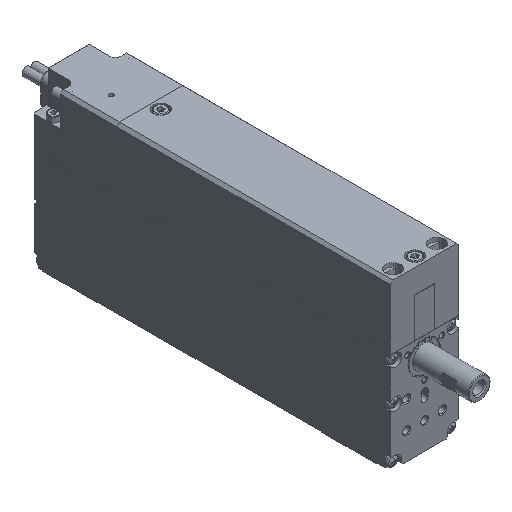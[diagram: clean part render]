
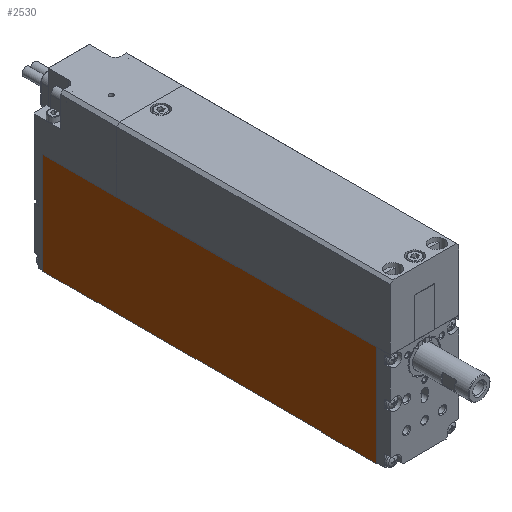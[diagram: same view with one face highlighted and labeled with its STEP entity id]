
A CAD part, isometric view. The second image highlights one B-rep face of the part: STEP entity #2530.
In plain terms, the highlighted planar face has unit normal (-1, 0, 0).
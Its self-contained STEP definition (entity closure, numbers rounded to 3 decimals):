
#1856=CARTESIAN_POINT('',(0.,36.8,0.0));
#1857=VERTEX_POINT('',#1856);
#1864=CARTESIAN_POINT('',(0.0,0.,0.0));
#1865=VERTEX_POINT('',#1864);
#1866=CARTESIAN_POINT('',(0.,36.8,0.0));
#1867=DIRECTION('',(0.0,-1.0,0.0));
#1868=VECTOR('',#1867,36.8);
#1869=LINE('',#1866,#1868);
#1870=EDGE_CURVE('',#1857,#1865,#1869,.T.);
#2178=CARTESIAN_POINT('',(0.,0.,-101.5));
#2179=VERTEX_POINT('',#2178);
#2186=CARTESIAN_POINT('',(0.0,0.,-121.5));
#2187=VERTEX_POINT('',#2186);
#2188=CARTESIAN_POINT('',(0.,0.,-101.5));
#2189=DIRECTION('',(0.0,0.0,-1.0));
#2190=VECTOR('',#2189,20.0);
#2191=LINE('',#2188,#2190);
#2192=EDGE_CURVE('',#2179,#2187,#2191,.T.);
#2440=CARTESIAN_POINT('',(0.,36.8,-121.5));
#2441=VERTEX_POINT('',#2440);
#2442=CARTESIAN_POINT('',(0.,36.8,-121.5));
#2443=DIRECTION('',(0.0,-1.0,0.0));
#2444=VECTOR('',#2443,36.8);
#2445=LINE('',#2442,#2444);
#2446=EDGE_CURVE('',#2441,#2187,#2445,.T.);
#2484=CARTESIAN_POINT('',(0.,36.8,0.0));
#2485=DIRECTION('',(-1.0,0.0,0.0));
#2486=DIRECTION('',(0.0,0.0,1.0));
#2487=AXIS2_PLACEMENT_3D('',#2484,#2485,#2486);
#2488=PLANE('',#2487);
#2489=ORIENTED_EDGE('',*,*,#2446,.T.);
#2490=ORIENTED_EDGE('',*,*,#2192,.F.);
#2491=CARTESIAN_POINT('',(0.,0.2,-101.5));
#2492=VERTEX_POINT('',#2491);
#2493=CARTESIAN_POINT('',(0.,0.,-101.5));
#2494=DIRECTION('',(0.0,1.0,0.0));
#2495=VECTOR('',#2494,0.2);
#2496=LINE('',#2493,#2495);
#2497=EDGE_CURVE('',#2179,#2492,#2496,.T.);
#2498=ORIENTED_EDGE('',*,*,#2497,.T.);
#2499=CARTESIAN_POINT('',(0.,0.2,-20.0));
#2500=VERTEX_POINT('',#2499);
#2501=CARTESIAN_POINT('',(0.,0.2,-101.5));
#2502=DIRECTION('',(0.0,0.0,1.0));
#2503=VECTOR('',#2502,81.5);
#2504=LINE('',#2501,#2503);
#2505=EDGE_CURVE('',#2492,#2500,#2504,.T.);
#2506=ORIENTED_EDGE('',*,*,#2505,.T.);
#2507=CARTESIAN_POINT('',(0.,0.,-20.0));
#2508=VERTEX_POINT('',#2507);
#2509=CARTESIAN_POINT('',(0.,0.2,-20.0));
#2510=DIRECTION('',(0.0,-1.0,0.0));
#2511=VECTOR('',#2510,0.2);
#2512=LINE('',#2509,#2511);
#2513=EDGE_CURVE('',#2500,#2508,#2512,.T.);
#2514=ORIENTED_EDGE('',*,*,#2513,.T.);
#2515=CARTESIAN_POINT('',(0.0,0.,0.0));
#2516=DIRECTION('',(0.0,0.0,-1.0));
#2517=VECTOR('',#2516,20.0);
#2518=LINE('',#2515,#2517);
#2519=EDGE_CURVE('',#1865,#2508,#2518,.T.);
#2520=ORIENTED_EDGE('',*,*,#2519,.F.);
#2521=ORIENTED_EDGE('',*,*,#1870,.F.);
#2522=CARTESIAN_POINT('',(0.,36.8,-121.5));
#2523=DIRECTION('',(0.0,0.0,1.0));
#2524=VECTOR('',#2523,121.5);
#2525=LINE('',#2522,#2524);
#2526=EDGE_CURVE('',#2441,#1857,#2525,.T.);
#2527=ORIENTED_EDGE('',*,*,#2526,.F.);
#2528=EDGE_LOOP('',(#2489,#2490,#2498,#2506,#2514,#2520,#2521,#2527));
#2529=FACE_OUTER_BOUND('',#2528,.T.);
#2530=ADVANCED_FACE('',(#2529),#2488,.T.);
